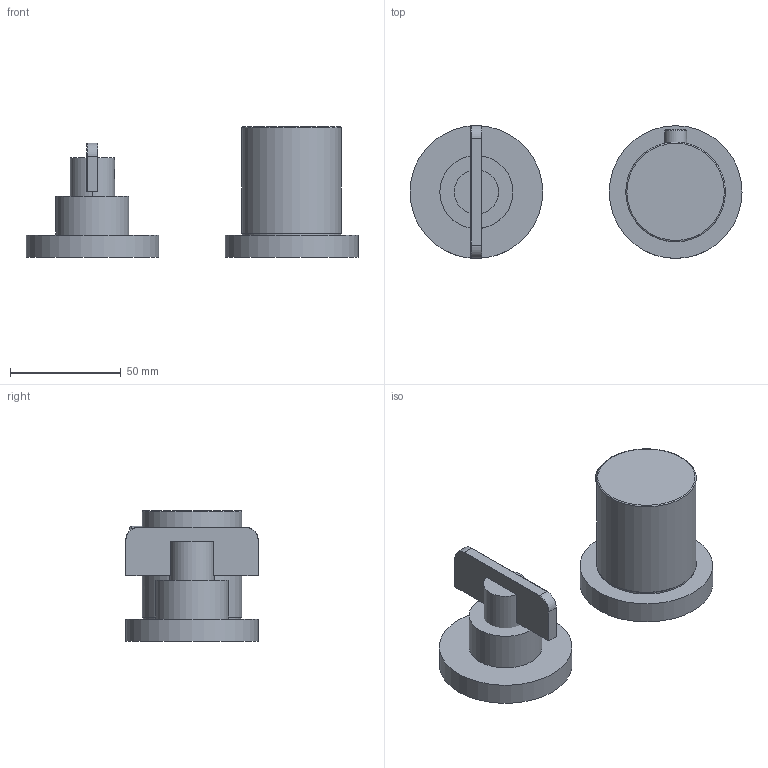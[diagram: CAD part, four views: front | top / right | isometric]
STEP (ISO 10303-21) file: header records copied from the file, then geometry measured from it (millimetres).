
FILE_DESCRIPTION(('STEP AP214'),'2;1');
FILE_NAME('DIS_3D_Y523B+M623A.stp','2024-04-30T15:02:30',(''),(''),'2015.2.119','THINKDESIGN','');
FILE_SCHEMA(('AUTOMOTIVE_DESIGN'));
Length unit declared in the file: millimetre
Products named in the file (1): top
Bounding box: 150 x 60 x 58.9 mm (x, y, z)
Volume: 157363.4 mm3; surface area: 36177.2 mm2
Topology: 11 solids, 11 shells, 149 faces, 317 edges, 196 vertices
Faces by surface type: plane 54, bspline 52, cylinder 43
Full cylindrical faces by diameter (mm): 9.957 x1, 33 x1, 45 x1, 60 x2
Entity records: 8327 total; most frequent: CARTESIAN_POINT 2491, DIRECTION 648, ORIENTED_EDGE 630, EDGE_CURVE 315, STYLED_ITEM 309, PRESENTATION_STYLE_ASSIGNMENT 302, SURFACE_STYLE_USAGE 302, SURFACE_SIDE_STYLE 302
